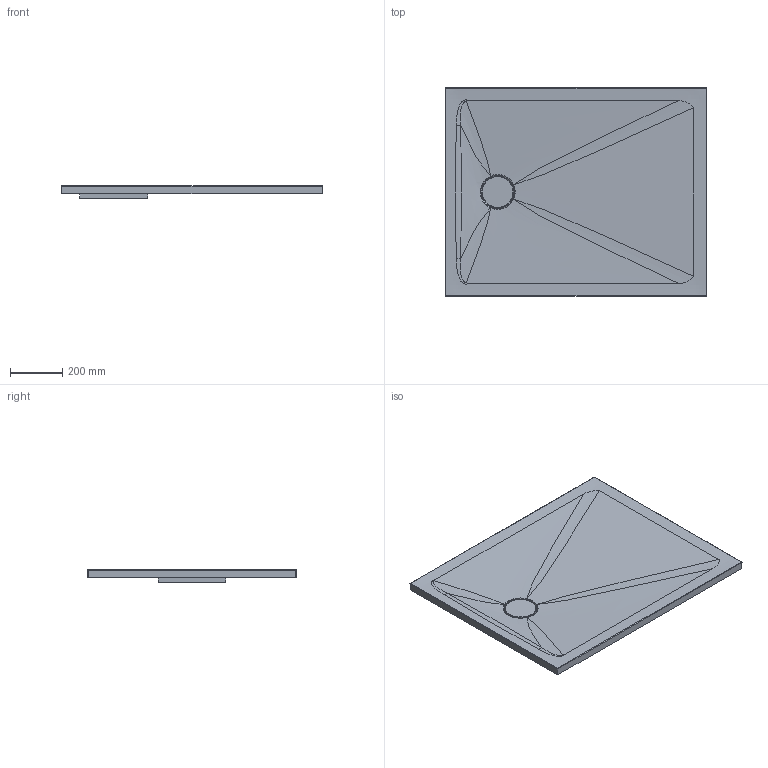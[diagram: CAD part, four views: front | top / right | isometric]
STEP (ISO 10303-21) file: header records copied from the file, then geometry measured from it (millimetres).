
FILE_DESCRIPTION (( 'STEP AP214' ), '1' );
FILE_NAME ('ARON 100x80.STEP', '2024-05-13T11:11:07', ( '' ), ( '' ), 'SwSTEP 2.0', 'SolidWorks 2021', '' );
FILE_SCHEMA (( 'AUTOMOTIVE_DESIGN' ));
Length unit declared in the file: millimetre
Products named in the file (1): ARON 100x80
Bounding box: 1000 x 800 x 47.99 mm (x, y, z)
Volume: 20235465.4 mm3; surface area: 1745271.4 mm2
Topology: 2 solids, 2 shells, 75 faces, 170 edges, 101 vertices
Faces by surface type: bspline 39, cylinder 19, plane 17
Full cylindrical faces by diameter (mm): 9 x3, 90 x1, 119 x1
Entity records: 11840 total; most frequent: CARTESIAN_POINT 10459, ORIENTED_EDGE 316, DIRECTION 164, EDGE_CURVE 158, VERTEX_POINT 101, B_SPLINE_CURVE_WITH_KNOTS 94, EDGE_LOOP 91, FACE_OUTER_BOUND 83
